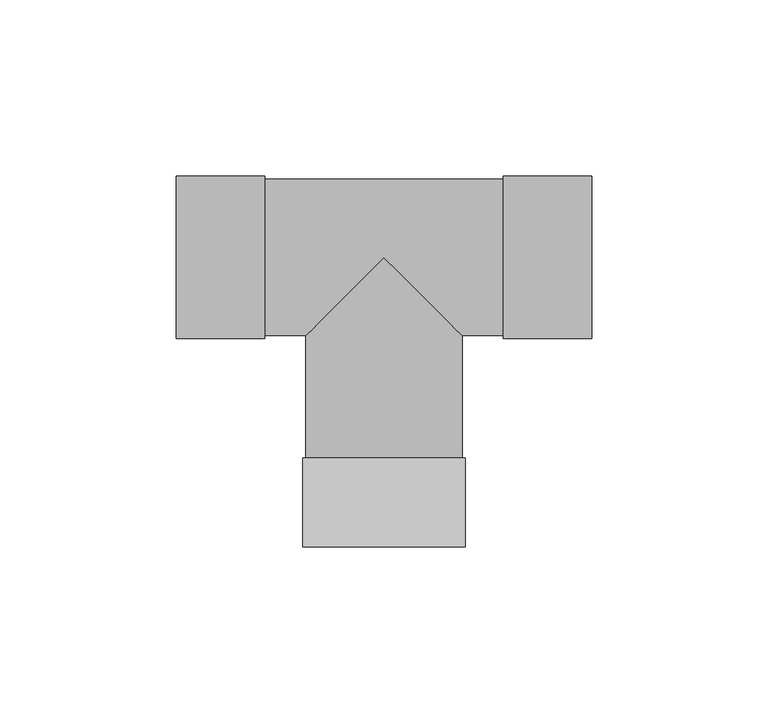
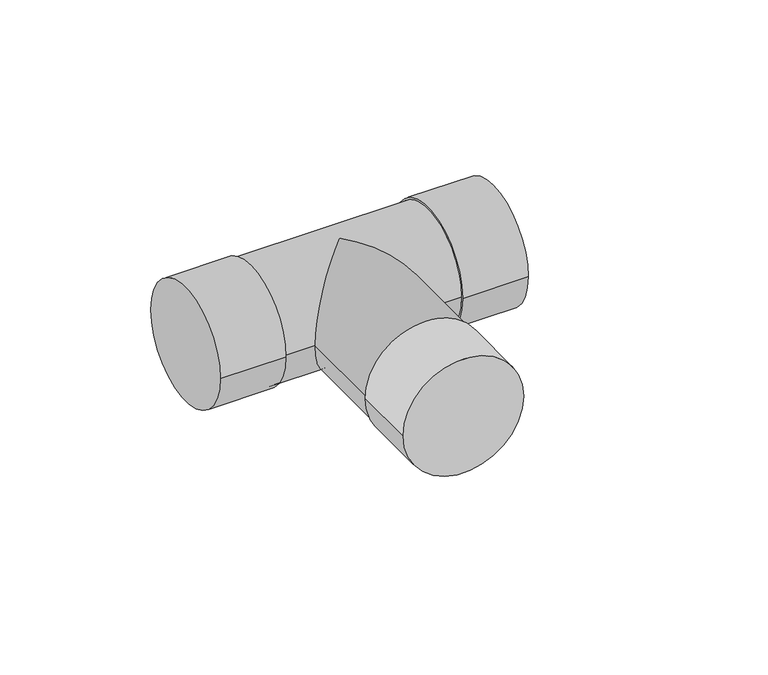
"""IFC4 building model written with IfcOpenShell, lengths in millimetres: pipe fitting geometry, Tê - Soldado - CU : Padrão."""

from ifc_helpers import new_model, si_unit, frame, origin, place, context, project, spatial, circle_curve, ellipse_curve, source, transform, mapped, element, save
from ifc_brep_helpers import plane_surface, cylinder_surface, advanced_brep


def pipe_fitting_bec7a568(model_context):
    return source(origin(), model_context, "Body", "AdvancedBrep", [
        advanced_brep(
        [(23.0651072, -82.1299699, 0.0), (-23.0648928, -82.1300301, 0.0), (23.0650744, -57.0049699, 0.0), (-23.0649256, -57.0050301, 0.0), (22.2500744, -57.004971, 0.0), (-22.2499256, -57.005029, 0.0), (-58.9425, -23.065, 0.0), (-58.9425, 23.065, 0.0), (-33.8175, -23.065, 0.0), (-33.8175, 23.065, 0.0), (-33.8175, -22.25, 0.0), (-33.8175, 22.25, 0.0), (33.8175, 22.25, 0.0), (-22.249971, -22.25, 0.0), (0.0, 0.0, 22.25), (22.250029, -22.25, 0.0), (33.8175, -22.25, 0.0), (0.0, 0.0, -22.25), (33.8175, -23.065, 0.0), (33.8175, 23.065, 0.0), (58.9425, -23.065, 0.0), (58.9425, 23.065, 0.0)],
        [
            (0, 1, circle_curve(frame((0.0001072, -82.13, 0.0), z_axis=(1.305176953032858e-06, -0.9999999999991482, 0.0), x_axis=(-0.9999999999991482, -1.305176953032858e-06, 0.0)), 23.065)),
            (1, 0, circle_curve(frame((0.0001072, -82.13, 0.0), z_axis=(1.305176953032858e-06, -0.9999999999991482, 0.0), x_axis=(-0.9999999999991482, -1.305176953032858e-06, 0.0)), 23.065)),
            (2, 3, circle_curve(frame((7.44e-05, -57.005, 0.0), z_axis=(-1.305176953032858e-06, 0.9999999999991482, 0.0), x_axis=(-0.9999999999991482, -1.305176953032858e-06, 0.0)), 23.065)),
            (3, 2, circle_curve(frame((7.44e-05, -57.005, 0.0), z_axis=(-1.305176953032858e-06, 0.9999999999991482, 0.0), x_axis=(-0.9999999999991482, -1.305176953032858e-06, 0.0)), 23.065)),
            (4, 5, circle_curve(frame((7.44e-05, -57.005, 0.0), z_axis=(1.305176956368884e-06, -0.9999999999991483, 0.0), x_axis=(0.9999999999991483, 1.305176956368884e-06, 0.0)), 22.25)),
            (5, 4, circle_curve(frame((7.44e-05, -57.005, 0.0), z_axis=(1.305176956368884e-06, -0.9999999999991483, 0.0), x_axis=(0.9999999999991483, 1.305176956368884e-06, 0.0)), 22.25)),
            (0, 2),
            (3, 1),
            (6, 7, circle_curve(frame((-58.9425, 0.0, 0.0), z_axis=(-1.0, 0.0, 0.0), x_axis=(0.0, 1.0, 0.0)), 23.065)),
            (7, 6, circle_curve(frame((-58.9425, 0.0, 0.0), z_axis=(-1.0, 0.0, 0.0), x_axis=(0.0, 1.0, 0.0)), 23.065)),
            (8, 9, circle_curve(frame((-33.8175, 0.0, 0.0), z_axis=(1.0, 0.0, 0.0), x_axis=(0.0, 1.0, 0.0)), 23.065)),
            (9, 8, circle_curve(frame((-33.8175, 0.0, 0.0), z_axis=(1.0, 0.0, 0.0), x_axis=(0.0, 1.0, 0.0)), 23.065)),
            (10, 11, circle_curve(frame((-33.8175, 0.0, 0.0), z_axis=(-1.0, 0.0, 0.0), x_axis=(0.0, 1.0, 0.0)), 22.25)),
            (11, 10, circle_curve(frame((-33.8175, 0.0, 0.0), z_axis=(-1.0, 0.0, 0.0), x_axis=(0.0, 1.0, 0.0)), 22.25)),
            (6, 8),
            (9, 7),
            (12, 11),
            (10, 13),
            (13, 14, ellipse_curve(frame((0.0, 0.0, 0.0), z_axis=(-0.7071072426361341, 0.7071063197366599, 0.0), x_axis=(-0.7071063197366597, -0.7071072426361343, 0.0)), 31.4662312, 22.25)),
            (14, 15, ellipse_curve(frame((0.0, 0.0, 0.0), z_axis=(0.7071063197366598, 0.7071072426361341, 0.0), x_axis=(-0.7071072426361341, 0.7071063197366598, 0.0)), 31.4662723, 22.25)),
            (15, 16),
            (16, 12, circle_curve(frame((33.8175, 0.0, 0.0), z_axis=(-1.0, 0.0, 0.0), x_axis=(0.0, 1.0, 0.0)), 22.25)),
            (12, 16, circle_curve(frame((33.8175, 0.0, 0.0), z_axis=(-1.0, 0.0, 0.0), x_axis=(0.0, 1.0, 0.0)), 22.25)),
            (15, 17, ellipse_curve(frame((0.0, 0.0, 0.0), z_axis=(0.7071063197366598, 0.7071072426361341, 0.0), x_axis=(-0.7071072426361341, 0.7071063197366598, 0.0)), 31.4662723, 22.25)),
            (17, 13, ellipse_curve(frame((0.0, 0.0, 0.0), z_axis=(-0.7071072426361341, 0.7071063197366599, 0.0), x_axis=(-0.7071063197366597, -0.7071072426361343, 0.0)), 31.4662312, 22.25)),
            (18, 19, circle_curve(frame((33.8175, 0.0, 0.0), z_axis=(-1.0, 0.0, 0.0), x_axis=(0.0, 1.0, 0.0)), 23.065)),
            (19, 18, circle_curve(frame((33.8175, 0.0, 0.0), z_axis=(-1.0, 0.0, 0.0), x_axis=(0.0, 1.0, 0.0)), 23.065)),
            (20, 21, circle_curve(frame((58.9425, 0.0, 0.0), z_axis=(1.0, 0.0, 0.0), x_axis=(0.0, 1.0, 0.0)), 23.065)),
            (21, 20, circle_curve(frame((58.9425, 0.0, 0.0), z_axis=(1.0, 0.0, 0.0), x_axis=(0.0, 1.0, 0.0)), 23.065)),
            (18, 20),
            (21, 19),
            (4, 15),
            (13, 5),
        ],
        [
            plane_surface(frame((0.0001072, -82.13, 0.0), z_axis=(1.3051769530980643e-06, -0.9999999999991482, 0.0), x_axis=(0.0, 0.0, 1.0))),
            plane_surface(frame((7.44e-05, -57.005, 0.0), z_axis=(-1.3051769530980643e-06, 0.9999999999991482, 0.0), x_axis=(0.0, 0.0, 1.0))),
            cylinder_surface(frame((0.0001072, -82.13, 0.0), z_axis=(1.305176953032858e-06, -0.9999999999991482, 0.0), x_axis=(-0.9999999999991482, -1.305176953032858e-06, 0.0)), 23.065),
            plane_surface(frame((-58.9425, 0.0, 0.0), z_axis=(-1.0, 0.0, 0.0), x_axis=(0.0, 0.0, 1.0))),
            plane_surface(frame((-33.8175, 0.0, 0.0), z_axis=(1.0, 0.0, 0.0), x_axis=(0.0, 0.0, 1.0))),
            cylinder_surface(frame((-58.9425, 0.0, 0.0), z_axis=(-1.0, 0.0, 0.0), x_axis=(0.0, 1.0, 0.0)), 23.065),
            cylinder_surface(frame((-33.8175, 0.0, 0.0), z_axis=(-1.0, 0.0, 0.0), x_axis=(0.0, 1.0, 0.0)), 22.25),
            plane_surface(frame((33.8175, 0.0, 0.0), z_axis=(-1.0, 0.0, 0.0), x_axis=(0.0, 0.0, 1.0))),
            plane_surface(frame((58.9425, 0.0, 0.0), z_axis=(1.0, 0.0, 0.0), x_axis=(0.0, 0.0, 1.0))),
            cylinder_surface(frame((33.8175, 0.0, 0.0), z_axis=(-1.0, 0.0, 0.0), x_axis=(0.0, 1.0, 0.0)), 23.065),
            cylinder_surface(frame((0.0, 0.0, 0.0), z_axis=(-1.305176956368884e-06, 0.9999999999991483, 0.0), x_axis=(0.9999999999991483, 1.305176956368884e-06, 0.0)), 22.25),
        ],
        [
            (0, [[1, 2]]),
            (1, [[3, 4], [5, 6]]),
            (2, [[-1, 7, -4, 8]]),
            (2, [[-2, -8, -3, -7]]),
            (3, [[9, 10]]),
            (4, [[11, 12], [13, 14]]),
            (5, [[-9, 15, -12, 16]]),
            (5, [[-10, -16, -11, -15]]),
            (6, [[17, -13, 18, 19, 20, 21, 22]]),
            (6, [[-17, 23, -21, 24, 25, -18, -14]]),
            (7, [[26, 27], [-22, -23]]),
            (8, [[28, 29]]),
            (9, [[-26, 30, -29, 31]]),
            (9, [[-27, -31, -28, -30]]),
            (10, [[32, -20, -19, 33, -5]]),
            (10, [[-32, -6, -33, -25, -24]]),
        ],
    ),
    ])


if __name__ == "__main__":
    model = new_model("IFC4")
    model_context = context("Model", 3, world=origin())
    ifc_project = project(units=[si_unit("LENGTHUNIT", "METRE", prefix="MILLI")], contexts=[model_context])
    site = spatial("IfcSite", under=ifc_project)
    building = spatial("IfcBuilding", under=site)
    placement = place(None, origin())
    pipe_fitting_shape = pipe_fitting_bec7a568(model_context)
    element("IfcPipeFitting", 1, ObjectType="Tê - Soldado - CU : Padrão", at=placement, inside=building, context=model_context, shape_type="MappedRepresentation", body=[
        mapped(pipe_fitting_shape, transform((0.0, 0.0, 0.0), x_axis=(1.0, 0.0, 0.0), y_axis=(0.0, 1.0, 0.0), z_axis=(0.0, 0.0, 1.0))),
    ])
    save(model, "model.ifc")
